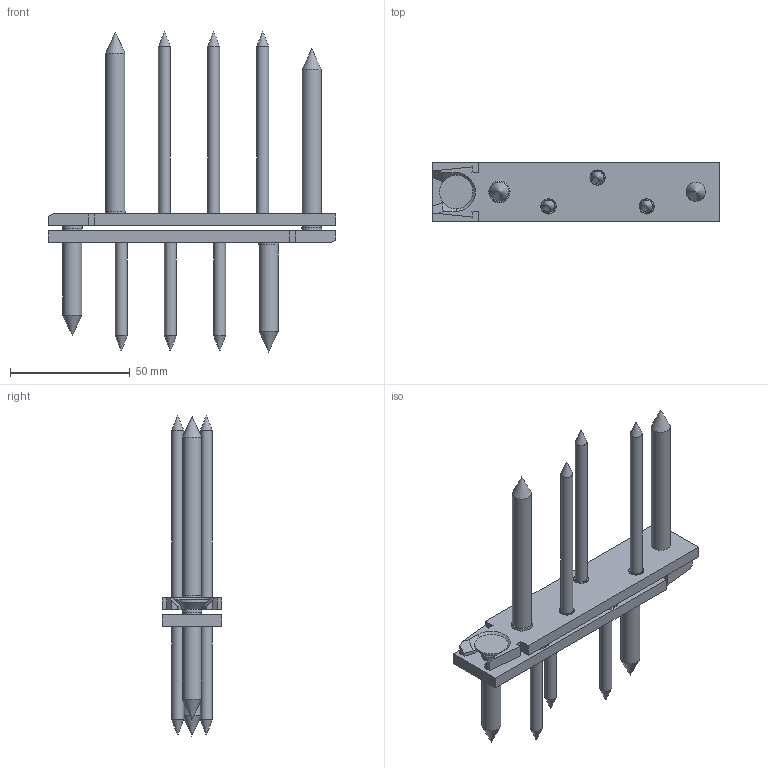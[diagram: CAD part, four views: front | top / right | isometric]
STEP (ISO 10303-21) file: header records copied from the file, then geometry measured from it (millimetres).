
FILE_DESCRIPTION(/* description */ ('Unknown'),/* implementation_level */ '2;1');
FILE_NAME(/* name */ 'RICON Edelstahl_120x25_EA',/* time_stamp */ '2022-02-09T08:14:00+01:00',/* author */ ('Unknown'),/* organization */ ('Unknown'),/* preprocessor_version */ 'ST-DEVELOPER v16.7',/* originating_system */ 'Solid Edge',/* authorisation */ 'Unknown');
FILE_SCHEMA (('AUTOMOTIVE_DESIGN {1 0 10303 214 3 1 1}'));
Length unit declared in the file: millimetre
Products named in the file (8): RICON Edelstahl_120x25_EA_V1; RICON Edelstahl_120x25_HT; RICON_25x120; SK_Schraube_5x50_1; SK_Schraube_8x50_1; RICON Edelstahl_120x25_NT; SK_Schraube_5x80_1; SK_Schraube_8x80_1
Assembly tree (14 placements, depth 3):
  RICON Edelstahl_120x25_EA_V1
    RICON Edelstahl_120x25_HT
      RICON_25x120
      SK_Schraube_5x50_1  x3
      SK_Schraube_8x50_1  x2
    RICON Edelstahl_120x25_NT
      RICON_25x120
      SK_Schraube_5x80_1  x3
      SK_Schraube_8x80_1  x2
Bounding box: 120 x 25 x 133.6 mm (x, y, z)
Volume: 44570.6 mm3; surface area: 28215.3 mm2
Topology: 12 solids, 12 shells, 158 faces, 326 edges, 204 vertices
Faces by surface type: plane 78, cylinder 50, cone 30
Full cylindrical faces by diameter (mm): 5 x6, 6 x6, 6.4 x6, 8 x6, 8.3 x4, 9 x2, 10 x3, 10.2 x3, 11 x6, 14 x4, 15 x2
Entity records: 1956 total; most frequent: DIRECTION 334, CARTESIAN_POINT 289, ORIENTED_EDGE 224, AXIS2_PLACEMENT_3D 136, FACE_BOUND 121, EDGE_LOOP 119, EDGE_CURVE 112, VERTEX_POINT 91
